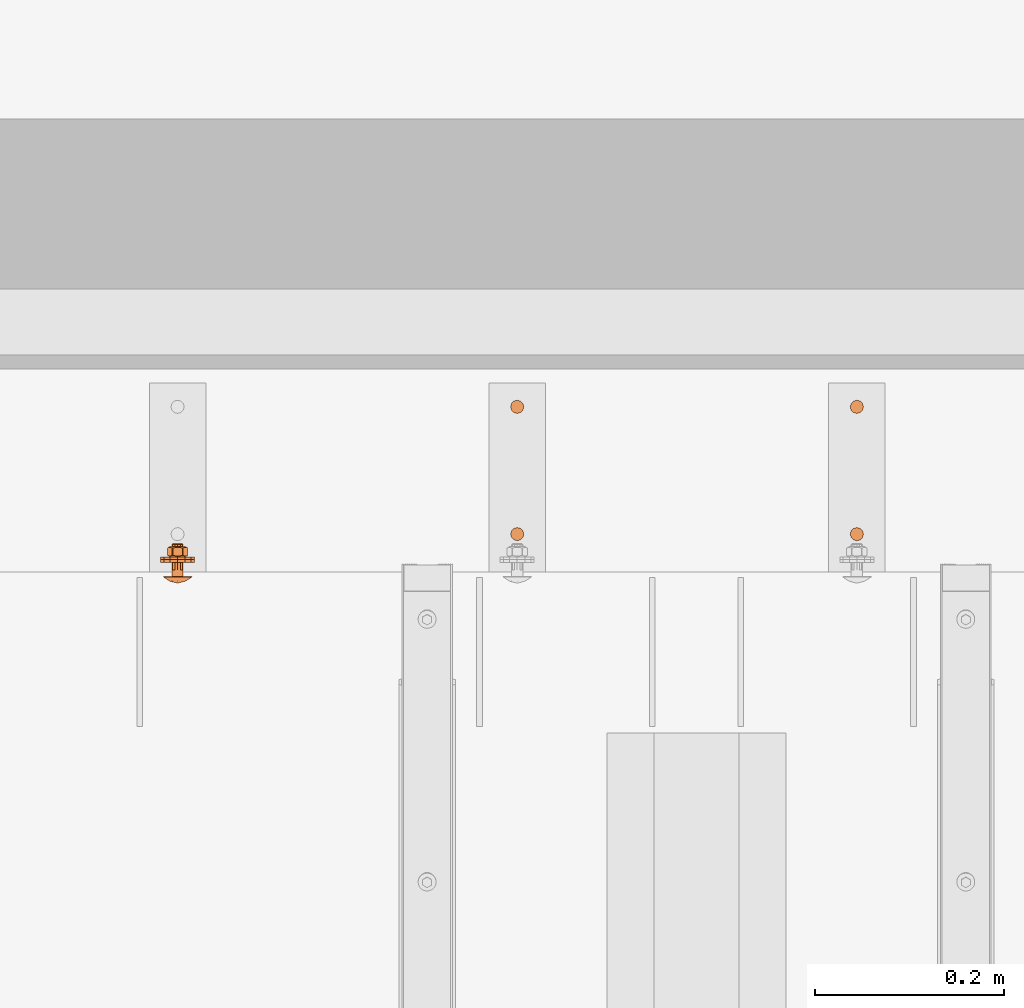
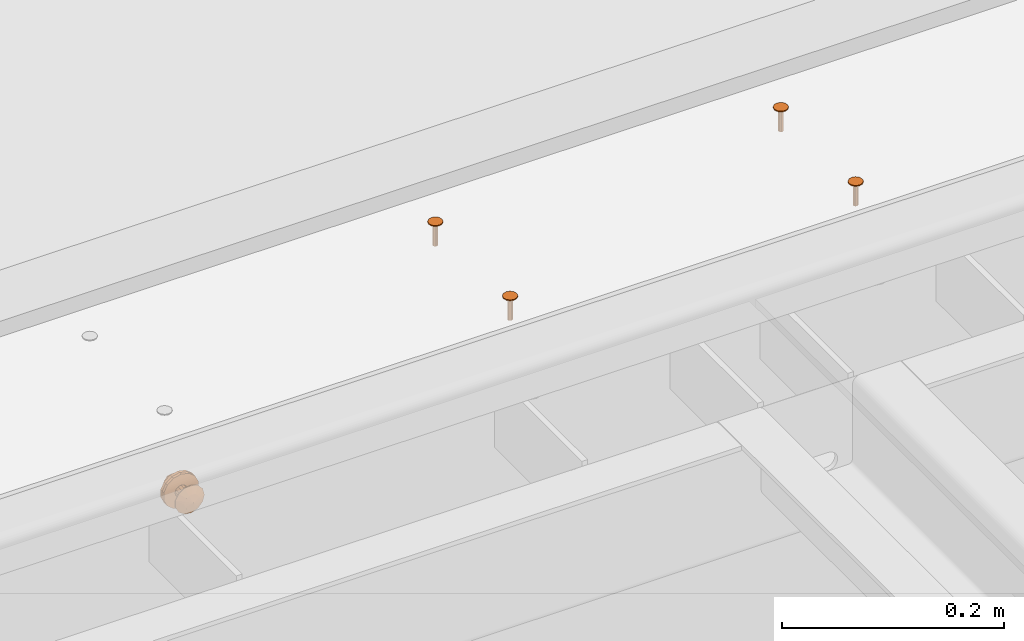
# One storey, part 109 of 116: 8 proxies.
"""IFC2X3 building model written with IfcOpenShell, lengths in millimetres."""

import ifcopenshell
import ifcopenshell.guid

model = None  # the IFC model being written
_history = None  # IfcOwnerHistory: only IFC2X3 demands one
_inside = {}  # id of a spatial element -> (the spatial element, [elements in it])
_under = {}  # id of a project, library or spatial element -> (it, [spatial elements below it])
_declared = {}  # id of a project -> (the project, [libraries it declares])
_typed = {}  # id of a type object -> (the type object, [elements of that type])
_made_of = {}  # id of a material, layer set ... -> (it, [elements and type objects made of it])


def new_model(schema):
    """Start an empty IFC model of exactly this schema.

    Asked for "IFC4X3", IfcOpenShell would pick the latest addendum, in which some entities
    have other attributes; the version numbers below select the first issue.
    IFC2X3 requires an IfcOwnerHistory on every rooted entity: one is made here for all.
    """
    global model, _history
    if schema == "IFC4X3":
        model = ifcopenshell.file(schema_version=(4, 3, 0, 0))
    else:
        model = ifcopenshell.file(schema=schema)
    _inside.clear()
    _under.clear()
    _declared.clear()
    _typed.clear()
    _made_of.clear()
    _history = None
    if model.schema == "IFC2X3":
        org = make("IfcOrganization", Name="unknown")
        user = make(
            "IfcPersonAndOrganization",
            ThePerson=make("IfcPerson", FamilyName="unknown"),
            TheOrganization=org,
        )
        app = make(
            "IfcApplication",
            ApplicationDeveloper=org,
            Version="unknown",
            ApplicationFullName="unknown",
            ApplicationIdentifier="unknown",
        )
        _history = make(
            "IfcOwnerHistory",
            OwningUser=user,
            OwningApplication=app,
            ChangeAction="ADDED",
            CreationDate=0,
        )
    return model


def make(cls, **values):
    """One entity of the class cls with the attributes given. An attribute that is None is left unset."""
    return model.create_entity(
        cls, **{name: value for name, value in values.items() if value is not None}
    )


def entity(cls, *values):
    """Any entity or typed value of the class cls, its attributes in the order of the schema. None: left unset."""
    e = model.create_entity(cls)
    for i, value in enumerate(values):
        if value is not None:
            e[i] = value
    return e


def rooted(cls, **values):
    """An entity with a GlobalId (a new one), such as an element, a storey or a relation."""
    return make(cls, GlobalId=ifcopenshell.guid.new(), OwnerHistory=_history, **values)


def si_unit(unit_type, name, prefix=None):
    """IfcSIUnit, for example si_unit("LENGTHUNIT", "METRE", prefix="MILLI")."""
    return make("IfcSIUnit", UnitType=unit_type, Prefix=prefix, Name=name)


def converted_unit(unit_type, name, factor, base, dimensions=None, offset=None):
    """IfcConversionBasedUnit, such as the inch: factor (a typed value) times the base unit."""
    return make(
        "IfcConversionBasedUnit"
        if offset is None
        else "IfcConversionBasedUnitWithOffset",
        ConversionOffset=offset,
        Dimensions=None
        if dimensions is None
        else entity("IfcDimensionalExponents", *dimensions),
        UnitType=unit_type,
        Name=name,
        ConversionFactor=make(
            "IfcMeasureWithUnit", ValueComponent=factor, UnitComponent=base
        ),
    )


def assignment(units):
    """IfcUnitAssignment: the units of a project."""
    return None if units is None else make("IfcUnitAssignment", Units=units)


def point(xyz):
    """IfcCartesianPoint."""
    return None if xyz is None else make("IfcCartesianPoint", Coordinates=xyz)


def direction(xyz):
    """IfcDirection."""
    return None if xyz is None else make("IfcDirection", DirectionRatios=xyz)


def frame(location, z_axis=None, x_axis=None):
    """IfcAxis2Placement3D, a coordinate frame: its origin and axes. An axis left out is left unset."""
    return make(
        "IfcAxis2Placement3D",
        Location=point(location),
        Axis=direction(z_axis),
        RefDirection=direction(x_axis),
    )


def origin_with_axes():
    """The frame at (0, 0, 0) with the z axis (0, 0, 1) and the x axis (1, 0, 0) written out."""
    return frame((0.0, 0.0, 0.0), z_axis=(0.0, 0.0, 1.0), x_axis=(1.0, 0.0, 0.0))


def place(relative_to, where):
    """IfcLocalPlacement: puts the frame where relative to a parent placement (None: the world)."""
    return make(
        "IfcLocalPlacement", PlacementRelTo=relative_to, RelativePlacement=where
    )


def context(
    kind, dimensions, precision=None, world=None, true_north=None, identifier=None
):
    """IfcGeometricRepresentationContext, for example the 3D "Model" context."""
    return make(
        "IfcGeometricRepresentationContext",
        ContextIdentifier=identifier,
        ContextType=kind,
        CoordinateSpaceDimension=dimensions,
        Precision=precision,
        WorldCoordinateSystem=world,
        TrueNorth=true_north,
    )


def project(units=None, contexts=None):
    """IfcProject with its units and contexts."""
    return rooted(
        "IfcProject",
        Name="project",
        RepresentationContexts=contexts,
        UnitsInContext=assignment(units),
    )


def spatial(cls, under=None, at=None, **own):
    """A site, building, storey or space (cls), placed at a placement, below another one or the project."""
    s = rooted(cls, ObjectPlacement=at, **own)
    if under is not None:
        _under.setdefault(under.id(), (under, []))[1].append(s)
    return s


def faces_of(points, faces, orient=None, outer=None):
    """IfcFace entities. A face is a list of loops; a loop is a list of indices into points, from 0.

    orient and outer hold one flag for each loop. By default every Orientation is true, the
    first loop of a face is its IfcFaceOuterBound and the others are IfcFaceBound.
    """
    made = []
    for i, loops in enumerate(faces):
        bounds = []
        for j, loop in enumerate(loops):
            is_outer = j == 0 if outer is None else outer[i][j]
            bounds.append(
                make(
                    "IfcFaceOuterBound" if is_outer else "IfcFaceBound",
                    Bound=make("IfcPolyLoop", Polygon=[points[k] for k in loop]),
                    Orientation=True if orient is None else orient[i][j],
                )
            )
        made.append(make("IfcFace", Bounds=bounds))
    return made


def faceted_brep(points, faces, orient=None, outer=None, voids=None):
    """IfcFacetedBrep: a solid bounded by flat faces; with voids (closed shells), ...WithVoids."""
    shared = [point(p) for p in points]
    hull = make("IfcClosedShell", CfsFaces=faces_of(shared, faces, orient, outer))
    if voids is None:
        return make("IfcFacetedBrep", Outer=hull)
    return make(
        "IfcFacetedBrepWithVoids",
        Outer=hull,
        Voids=[
            make(cls, CfsFaces=faces_of(shared, fs, o, b)) for cls, fs, o, b in voids
        ],
    )


def shape(context_of_items, identifier, shape_type, items):
    """IfcShapeRepresentation: the items that make up one representation, for example the "Body"."""
    return make(
        "IfcShapeRepresentation",
        ContextOfItems=context_of_items,
        RepresentationIdentifier=identifier,
        RepresentationType=shape_type,
        Items=items,
    )


def material(Name=None, Category=None):
    """IfcMaterial."""
    return make("IfcMaterial", Name=Name, Category=Category)


def made_of(thing, what):
    """Note that an element or type object is made of a material, layer set ...; save() writes the relation."""
    if what is not None:
        _made_of.setdefault(what.id(), (what, []))[1].append(thing)
    return thing


def element(
    cls,
    number,
    at=None,
    inside=None,
    cuts=None,
    type_object=None,
    material=None,
    context=None,
    identifier="Body",
    shape_type=None,
    held_by="IfcProductDefinitionShape",
    body=None,
    shapes=None,
    **own,
):
    """One element of the class cls, such as IfcWall. Its Tag is "e" and its number.

    at: its placement. inside: the storey or other place that contains it. cuts: it is an
    opening in that element (IfcRelVoidsElement). A single representation is given by context,
    identifier, shape_type and body (its items); several are given by shapes. held_by: the class
    of the entity that holds the representations. save() writes the other relations.
    """
    e = rooted(cls, Tag="e%d" % number, ObjectPlacement=at, **own)
    if body is not None:
        shapes = [shape(context, identifier, shape_type, body)]
    if shapes is not None:
        e.Representation = make(held_by, Representations=shapes)
    if inside is not None:
        _inside.setdefault(inside.id(), (inside, []))[1].append(e)
    if cuts is not None:
        rooted(
            "IfcRelVoidsElement", RelatingBuildingElement=cuts, RelatedOpeningElement=e
        )
    if type_object is not None:
        _typed.setdefault(type_object.id(), (type_object, []))[1].append(e)
    return made_of(e, material)


def aggregate(whole, parts):
    """IfcRelAggregates: a whole, such as a stair, and the parts it consists of."""
    return rooted("IfcRelAggregates", RelatingObject=whole, RelatedObjects=parts)


def save(model, path):
    """Write the relations noted so far, then the file.

    IfcRelAggregates (storeys below a building ...), IfcRelContainedInSpatialStructure (elements
    in a storey), IfcRelDefinesByType, IfcRelAssociatesMaterial and IfcRelDeclares: one each for
    every whole, place, type object, material and project.
    """
    for whole, parts in _under.values():
        aggregate(whole, parts)
    for where, things in _inside.values():
        rooted(
            "IfcRelContainedInSpatialStructure",
            RelatedElements=things,
            RelatingStructure=where,
        )
    for kind, things in _typed.values():
        rooted("IfcRelDefinesByType", RelatedObjects=things, RelatingType=kind)
    for what, things in _made_of.values():
        rooted("IfcRelAssociatesMaterial", RelatedObjects=things, RelatingMaterial=what)
    for by, libraries in _declared.values():
        rooted("IfcRelDeclares", RelatingContext=by, RelatedDefinitions=libraries)
    model.write(path)


model = new_model("IFC2X3")

# Units and contexts
model_context = context("Model", 3, precision=1e-09, world=origin_with_axes())
ifc_project = project(units=[si_unit("LENGTHUNIT", "METRE", prefix="MILLI"), si_unit("AREAUNIT", "SQUARE_METRE"), si_unit("VOLUMEUNIT", "CUBIC_METRE"), converted_unit("PLANEANGLEUNIT", "DEGREE", entity("IfcPlaneAngleMeasure", 0.01745329), si_unit("PLANEANGLEUNIT", "RADIAN"), dimensions=[0, 0, 0, 0, 0, 0, 0])], contexts=[model_context])

# Site, building, storey
site_placement = place(None, origin_with_axes())
site = spatial("IfcSite", under=ifc_project, at=site_placement, Name="Site", CompositionType="ELEMENT")
building_placement = place(site_placement, origin_with_axes())
building = spatial("IfcBuilding", under=site, at=building_placement, Name="Struktur 1", CompositionType="ELEMENT")
storey_placement = place(building_placement, origin_with_axes())
storey = spatial("IfcBuildingStorey", under=building, at=storey_placement, Name="Default Storey", CompositionType="ELEMENT", Elevation=0.0)

# Proxies
ifc_material = material(Name="Kein")
proxy_1_placement = place(None, origin_with_axes())
element("IfcBuildingElementProxy", 1, at=proxy_1_placement, inside=storey, material=ifc_material, ObjectType="-", context=model_context, shape_type="Brep", body=[
    faceted_brep([(56922.050634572, 12055.358883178, -5.0), (56922.050634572, 12055.358883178, -4.0), (56918.550634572, 12056.296705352, -4.0), (56918.550634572, 12056.296705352, -5.0), (56925.550634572, 12056.296705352, -5.0), (56925.550634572, 12056.296705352, -4.0), (56928.112812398, 12065.858883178, -4.0), (56925.550634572, 12068.421061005, -4.0), (56922.050634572, 12069.358883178, -4.0), (56918.550634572, 12068.421061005, -4.0), (56915.988456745, 12065.858883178, -4.0), (56915.050634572, 12062.358883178, -4.0), (56915.988456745, 12058.858883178, -4.0), (56928.112812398, 12058.858883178, -4.0), (56929.050634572, 12062.358883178, -4.0), (56915.988456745, 12065.858883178, -5.0), (56918.550634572, 12068.421061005, -5.0), (56922.050634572, 12069.358883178, -5.0), (56925.550634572, 12068.421061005, -5.0), (56928.112812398, 12065.858883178, -5.0), (56929.050634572, 12062.358883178, -5.0), (56928.112812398, 12058.858883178, -5.0), (56915.988456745, 12058.858883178, -5.0), (56915.050634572, 12062.358883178, -5.0)], [[[0, 1, 2, 3]], [[1, 0, 4, 5]], [[6, 7, 8, 9, 10, 11, 12, 2, 1, 5, 13, 14]], [[15, 16, 17, 18, 19, 20, 21, 4, 0, 3, 22, 23]], [[3, 2, 12, 22]], [[5, 4, 21, 13]], [[11, 23, 22, 12]], [[10, 15, 23, 11]], [[13, 21, 20, 14]], [[16, 9, 8, 17]], [[15, 10, 9, 16]], [[17, 8, 7, 18]], [[14, 20, 19, 6]], [[18, 7, 6, 19]]]),
    faceted_brep([(56922.050634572, 12059.858883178, -30.0), (56922.050634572, 12059.858883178, -5.0), (56920.800634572, 12060.193819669, -5.0), (56920.800634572, 12060.193819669, -30.0), (56923.300634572, 12060.193819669, -30.0), (56923.300634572, 12060.193819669, -5.0), (56924.215698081, 12063.608883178, -5.0), (56923.300634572, 12064.523946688, -5.0), (56922.050634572, 12064.858883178, -5.0), (56920.800634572, 12064.523946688, -5.0), (56919.885571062, 12063.608883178, -5.0), (56919.550634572, 12062.358883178, -5.0), (56919.885571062, 12061.108883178, -5.0), (56924.215698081, 12061.108883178, -5.0), (56924.550634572, 12062.358883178, -5.0), (56919.885571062, 12063.608883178, -30.0), (56920.800634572, 12064.523946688, -30.0), (56922.050634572, 12064.858883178, -30.0), (56923.300634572, 12064.523946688, -30.0), (56924.215698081, 12063.608883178, -30.0), (56924.550634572, 12062.358883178, -30.0), (56924.215698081, 12061.108883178, -30.0), (56919.885571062, 12061.108883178, -30.0), (56919.550634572, 12062.358883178, -30.0)], [[[0, 1, 2, 3]], [[1, 0, 4, 5]], [[6, 7, 8, 9, 10, 11, 12, 2, 1, 5, 13, 14]], [[15, 16, 17, 18, 19, 20, 21, 4, 0, 3, 22, 23]], [[3, 2, 12, 22]], [[5, 4, 21, 13]], [[11, 23, 22, 12]], [[10, 15, 23, 11]], [[13, 21, 20, 14]], [[16, 9, 8, 17]], [[15, 10, 9, 16]], [[17, 8, 7, 18]], [[14, 20, 19, 6]], [[18, 7, 6, 19]]]),
])
proxy_2_placement = place(None, origin_with_axes())
element("IfcBuildingElementProxy", 2, at=proxy_2_placement, inside=storey, material=ifc_material, ObjectType="-", context=model_context, shape_type="Brep", body=[
    faceted_brep([(56922.050634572, 12190.357883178, -5.0), (56922.050634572, 12190.357883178, -4.0), (56918.550634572, 12191.295705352, -4.0), (56918.550634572, 12191.295705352, -5.0), (56925.550634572, 12191.295705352, -5.0), (56925.550634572, 12191.295705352, -4.0), (56928.112812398, 12200.857883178, -4.0), (56925.550634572, 12203.420061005, -4.0), (56922.050634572, 12204.357883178, -4.0), (56918.550634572, 12203.420061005, -4.0), (56915.988456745, 12200.857883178, -4.0), (56915.050634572, 12197.357883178, -4.0), (56915.988456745, 12193.857883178, -4.0), (56928.112812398, 12193.857883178, -4.0), (56929.050634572, 12197.357883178, -4.0), (56915.988456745, 12200.857883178, -5.0), (56918.550634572, 12203.420061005, -5.0), (56922.050634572, 12204.357883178, -5.0), (56925.550634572, 12203.420061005, -5.0), (56928.112812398, 12200.857883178, -5.0), (56929.050634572, 12197.357883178, -5.0), (56928.112812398, 12193.857883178, -5.0), (56915.988456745, 12193.857883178, -5.0), (56915.050634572, 12197.357883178, -5.0)], [[[0, 1, 2, 3]], [[1, 0, 4, 5]], [[6, 7, 8, 9, 10, 11, 12, 2, 1, 5, 13, 14]], [[15, 16, 17, 18, 19, 20, 21, 4, 0, 3, 22, 23]], [[3, 2, 12, 22]], [[5, 4, 21, 13]], [[11, 23, 22, 12]], [[10, 15, 23, 11]], [[13, 21, 20, 14]], [[16, 9, 8, 17]], [[15, 10, 9, 16]], [[17, 8, 7, 18]], [[14, 20, 19, 6]], [[18, 7, 6, 19]]]),
    faceted_brep([(56922.050634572, 12194.857883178, -30.0), (56922.050634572, 12194.857883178, -5.0), (56920.800634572, 12195.192819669, -5.0), (56920.800634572, 12195.192819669, -30.0), (56923.300634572, 12195.192819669, -30.0), (56923.300634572, 12195.192819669, -5.0), (56924.215698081, 12198.607883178, -5.0), (56923.300634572, 12199.522946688, -5.0), (56922.050634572, 12199.857883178, -5.0), (56920.800634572, 12199.522946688, -5.0), (56919.885571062, 12198.607883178, -5.0), (56919.550634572, 12197.357883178, -5.0), (56919.885571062, 12196.107883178, -5.0), (56924.215698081, 12196.107883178, -5.0), (56924.550634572, 12197.357883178, -5.0), (56919.885571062, 12198.607883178, -30.0), (56920.800634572, 12199.522946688, -30.0), (56922.050634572, 12199.857883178, -30.0), (56923.300634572, 12199.522946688, -30.0), (56924.215698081, 12198.607883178, -30.0), (56924.550634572, 12197.357883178, -30.0), (56924.215698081, 12196.107883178, -30.0), (56919.885571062, 12196.107883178, -30.0), (56919.550634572, 12197.357883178, -30.0)], [[[0, 1, 2, 3]], [[1, 0, 4, 5]], [[6, 7, 8, 9, 10, 11, 12, 2, 1, 5, 13, 14]], [[15, 16, 17, 18, 19, 20, 21, 4, 0, 3, 22, 23]], [[3, 2, 12, 22]], [[5, 4, 21, 13]], [[11, 23, 22, 12]], [[10, 15, 23, 11]], [[13, 21, 20, 14]], [[16, 9, 8, 17]], [[15, 10, 9, 16]], [[17, 8, 7, 18]], [[14, 20, 19, 6]], [[18, 7, 6, 19]]]),
])
proxy_3_placement = place(None, origin_with_axes())
element("IfcBuildingElementProxy", 3, at=proxy_3_placement, inside=storey, material=ifc_material, ObjectType="-", context=model_context, shape_type="Brep", body=[
    faceted_brep([(56562.050634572, 12055.358883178, -5.0), (56562.050634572, 12055.358883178, -4.0), (56558.550634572, 12056.296705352, -4.0), (56558.550634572, 12056.296705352, -5.0), (56565.550634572, 12056.296705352, -5.0), (56565.550634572, 12056.296705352, -4.0), (56568.112812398, 12065.858883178, -4.0), (56565.550634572, 12068.421061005, -4.0), (56562.050634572, 12069.358883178, -4.0), (56558.550634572, 12068.421061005, -4.0), (56555.988456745, 12065.858883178, -4.0), (56555.050634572, 12062.358883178, -4.0), (56555.988456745, 12058.858883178, -4.0), (56568.112812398, 12058.858883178, -4.0), (56569.050634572, 12062.358883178, -4.0), (56555.988456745, 12065.858883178, -5.0), (56558.550634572, 12068.421061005, -5.0), (56562.050634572, 12069.358883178, -5.0), (56565.550634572, 12068.421061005, -5.0), (56568.112812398, 12065.858883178, -5.0), (56569.050634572, 12062.358883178, -5.0), (56568.112812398, 12058.858883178, -5.0), (56555.988456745, 12058.858883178, -5.0), (56555.050634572, 12062.358883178, -5.0)], [[[0, 1, 2, 3]], [[1, 0, 4, 5]], [[6, 7, 8, 9, 10, 11, 12, 2, 1, 5, 13, 14]], [[15, 16, 17, 18, 19, 20, 21, 4, 0, 3, 22, 23]], [[3, 2, 12, 22]], [[5, 4, 21, 13]], [[11, 23, 22, 12]], [[10, 15, 23, 11]], [[13, 21, 20, 14]], [[16, 9, 8, 17]], [[15, 10, 9, 16]], [[17, 8, 7, 18]], [[14, 20, 19, 6]], [[18, 7, 6, 19]]]),
    faceted_brep([(56562.050634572, 12059.858883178, -30.0), (56562.050634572, 12059.858883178, -5.0), (56560.800634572, 12060.193819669, -5.0), (56560.800634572, 12060.193819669, -30.0), (56563.300634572, 12060.193819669, -30.0), (56563.300634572, 12060.193819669, -5.0), (56564.215698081, 12063.608883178, -5.0), (56563.300634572, 12064.523946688, -5.0), (56562.050634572, 12064.858883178, -5.0), (56560.800634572, 12064.523946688, -5.0), (56559.885571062, 12063.608883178, -5.0), (56559.550634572, 12062.358883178, -5.0), (56559.885571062, 12061.108883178, -5.0), (56564.215698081, 12061.108883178, -5.0), (56564.550634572, 12062.358883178, -5.0), (56559.885571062, 12063.608883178, -30.0), (56560.800634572, 12064.523946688, -30.0), (56562.050634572, 12064.858883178, -30.0), (56563.300634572, 12064.523946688, -30.0), (56564.215698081, 12063.608883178, -30.0), (56564.550634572, 12062.358883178, -30.0), (56564.215698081, 12061.108883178, -30.0), (56559.885571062, 12061.108883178, -30.0), (56559.550634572, 12062.358883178, -30.0)], [[[0, 1, 2, 3]], [[1, 0, 4, 5]], [[6, 7, 8, 9, 10, 11, 12, 2, 1, 5, 13, 14]], [[15, 16, 17, 18, 19, 20, 21, 4, 0, 3, 22, 23]], [[3, 2, 12, 22]], [[5, 4, 21, 13]], [[11, 23, 22, 12]], [[10, 15, 23, 11]], [[13, 21, 20, 14]], [[16, 9, 8, 17]], [[15, 10, 9, 16]], [[17, 8, 7, 18]], [[14, 20, 19, 6]], [[18, 7, 6, 19]]]),
])
proxy_4_placement = place(None, origin_with_axes())
element("IfcBuildingElementProxy", 4, at=proxy_4_placement, inside=storey, material=ifc_material, ObjectType="-", context=model_context, shape_type="Brep", body=[
    faceted_brep([(56562.050634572, 12190.357883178, -5.0), (56562.050634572, 12190.357883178, -4.0), (56558.550634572, 12191.295705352, -4.0), (56558.550634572, 12191.295705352, -5.0), (56565.550634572, 12191.295705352, -5.0), (56565.550634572, 12191.295705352, -4.0), (56568.112812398, 12200.857883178, -4.0), (56565.550634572, 12203.420061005, -4.0), (56562.050634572, 12204.357883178, -4.0), (56558.550634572, 12203.420061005, -4.0), (56555.988456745, 12200.857883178, -4.0), (56555.050634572, 12197.357883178, -4.0), (56555.988456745, 12193.857883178, -4.0), (56568.112812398, 12193.857883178, -4.0), (56569.050634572, 12197.357883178, -4.0), (56555.988456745, 12200.857883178, -5.0), (56558.550634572, 12203.420061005, -5.0), (56562.050634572, 12204.357883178, -5.0), (56565.550634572, 12203.420061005, -5.0), (56568.112812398, 12200.857883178, -5.0), (56569.050634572, 12197.357883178, -5.0), (56568.112812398, 12193.857883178, -5.0), (56555.988456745, 12193.857883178, -5.0), (56555.050634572, 12197.357883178, -5.0)], [[[0, 1, 2, 3]], [[1, 0, 4, 5]], [[6, 7, 8, 9, 10, 11, 12, 2, 1, 5, 13, 14]], [[15, 16, 17, 18, 19, 20, 21, 4, 0, 3, 22, 23]], [[3, 2, 12, 22]], [[5, 4, 21, 13]], [[11, 23, 22, 12]], [[10, 15, 23, 11]], [[13, 21, 20, 14]], [[16, 9, 8, 17]], [[15, 10, 9, 16]], [[17, 8, 7, 18]], [[14, 20, 19, 6]], [[18, 7, 6, 19]]]),
    faceted_brep([(56562.050634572, 12194.857883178, -30.0), (56562.050634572, 12194.857883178, -5.0), (56560.800634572, 12195.192819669, -5.0), (56560.800634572, 12195.192819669, -30.0), (56563.300634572, 12195.192819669, -30.0), (56563.300634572, 12195.192819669, -5.0), (56564.215698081, 12198.607883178, -5.0), (56563.300634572, 12199.522946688, -5.0), (56562.050634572, 12199.857883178, -5.0), (56560.800634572, 12199.522946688, -5.0), (56559.885571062, 12198.607883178, -5.0), (56559.550634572, 12197.357883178, -5.0), (56559.885571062, 12196.107883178, -5.0), (56564.215698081, 12196.107883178, -5.0), (56564.550634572, 12197.357883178, -5.0), (56559.885571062, 12198.607883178, -30.0), (56560.800634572, 12199.522946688, -30.0), (56562.050634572, 12199.857883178, -30.0), (56563.300634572, 12199.522946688, -30.0), (56564.215698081, 12198.607883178, -30.0), (56564.550634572, 12197.357883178, -30.0), (56564.215698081, 12196.107883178, -30.0), (56559.885571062, 12196.107883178, -30.0), (56559.550634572, 12197.357883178, -30.0)], [[[0, 1, 2, 3]], [[1, 0, 4, 5]], [[6, 7, 8, 9, 10, 11, 12, 2, 1, 5, 13, 14]], [[15, 16, 17, 18, 19, 20, 21, 4, 0, 3, 22, 23]], [[3, 2, 12, 22]], [[5, 4, 21, 13]], [[11, 23, 22, 12]], [[10, 15, 23, 11]], [[13, 21, 20, 14]], [[16, 9, 8, 17]], [[15, 10, 9, 16]], [[17, 8, 7, 18]], [[14, 20, 19, 6]], [[18, 7, 6, 19]]]),
])
proxy_5_placement = place(None, origin_with_axes())
element("IfcBuildingElementProxy", 5, at=proxy_5_placement, inside=storey, material=ifc_material, ObjectType="-", context=model_context, shape_type="Brep", body=[
    faceted_brep([(56216.514516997, 12032.358883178, -63.465438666), (56216.514516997, 12035.358883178, -63.465438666), (56210.077483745, 12035.358883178, -58.332075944), (56210.077483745, 12032.358883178, -58.332075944), (56220.086800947, 12032.358883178, -79.116637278), (56220.086800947, 12032.358883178, -70.883362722), (56202.050634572, 12032.358883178, -56.5), (56194.023785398, 12032.358883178, -58.332075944), (56187.586752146, 12032.358883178, -63.465438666), (56184.014468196, 12032.358883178, -70.883362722), (56184.014468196, 12032.358883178, -79.116637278), (56187.586752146, 12032.358883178, -86.534561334), (56194.023785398, 12032.358883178, -91.667924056), (56202.050634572, 12032.358883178, -93.5), (56210.077483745, 12032.358883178, -91.667924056), (56216.514516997, 12032.358883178, -86.534561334), (56207.679799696, 12032.358883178, -71.75), (56208.550634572, 12032.358883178, -75.0), (56207.679799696, 12032.358883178, -78.25), (56205.300634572, 12032.358883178, -80.629165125), (56202.050634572, 12032.358883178, -81.5), (56198.800634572, 12032.358883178, -80.629165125), (56196.421469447, 12032.358883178, -78.25), (56195.550634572, 12032.358883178, -75.0), (56196.421469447, 12032.358883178, -71.75), (56198.800634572, 12032.358883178, -69.370834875), (56202.050634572, 12032.358883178, -68.5), (56205.300634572, 12032.358883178, -69.370834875), (56194.023785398, 12035.358883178, -58.332075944), (56202.050634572, 12035.358883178, -56.5), (56220.086800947, 12035.358883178, -70.883362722), (56220.086800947, 12035.358883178, -79.116637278), (56216.514516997, 12035.358883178, -86.534561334), (56210.077483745, 12035.358883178, -91.667924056), (56202.050634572, 12035.358883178, -93.5), (56194.023785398, 12035.358883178, -91.667924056), (56187.586752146, 12035.358883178, -86.534561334), (56184.014468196, 12035.358883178, -79.116637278), (56184.014468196, 12035.358883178, -70.883362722), (56187.586752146, 12035.358883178, -63.465438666), (56202.050634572, 12035.358883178, -68.5), (56198.800634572, 12035.358883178, -69.370834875), (56196.421469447, 12035.358883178, -71.75), (56195.550634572, 12035.358883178, -75.0), (56196.421469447, 12035.358883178, -78.25), (56198.800634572, 12035.358883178, -80.629165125), (56202.050634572, 12035.358883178, -81.5), (56205.300634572, 12035.358883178, -80.629165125), (56207.679799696, 12035.358883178, -78.25), (56208.550634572, 12035.358883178, -75.0), (56207.679799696, 12035.358883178, -71.75), (56205.300634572, 12035.358883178, -69.370834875)], [[[0, 1, 2, 3]], [[4, 5, 0, 3, 6, 7, 8, 9, 10, 11, 12, 13, 14, 15], [16, 17, 18, 19, 20, 21, 22, 23, 24, 25, 26, 27]], [[28, 29, 2, 1, 30, 31, 32, 33, 34, 35, 36, 37, 38, 39], [40, 41, 42, 43, 44, 45, 46, 47, 48, 49, 50, 51]], [[1, 0, 5, 30]], [[27, 51, 50, 16]], [[51, 27, 26, 40]], [[3, 2, 29, 6]], [[30, 5, 4, 31]], [[16, 50, 49, 17]], [[40, 26, 25, 41]], [[6, 29, 28, 7]], [[31, 4, 15, 32]], [[17, 49, 48, 18]], [[41, 25, 24, 42]], [[7, 28, 39, 8]], [[32, 15, 14, 33]], [[18, 48, 47, 19]], [[42, 24, 23, 43]], [[8, 39, 38, 9]], [[33, 14, 13, 34]], [[19, 47, 46, 20]], [[22, 44, 43, 23]], [[9, 38, 37, 10]], [[45, 21, 20, 46]], [[44, 22, 21, 45]], [[34, 13, 12, 35]], [[10, 37, 36, 11]], [[35, 12, 11, 36]]]),
])
proxy_6_placement = place(None, origin_with_axes())
element("IfcBuildingElementProxy", 6, at=proxy_6_placement, inside=storey, material=ifc_material, ObjectType="-", context=model_context, shape_type="Brep", body=[
    faceted_brep([(56207.538668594, 12039.773542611, -65.756103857), (56207.538668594, 12047.744223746, -65.756103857), (56207.31206645, 12047.744223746, -65.625275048), (56207.31206645, 12039.773542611, -65.625275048), (56207.762019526, 12039.773542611, -65.892408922), (56206.200634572, 12038.358883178, -67.811989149), (56206.200634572, 12049.158883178, -67.811989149), (56207.762019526, 12047.744223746, -65.892408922), (56207.082347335, 12047.744223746, -65.5), (56207.082347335, 12039.773542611, -65.5), (56212.793732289, 12047.744223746, -74.607591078), (56212.793732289, 12039.773542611, -74.607591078), (56212.800100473, 12039.773542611, -74.869171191), (56212.800100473, 12047.744223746, -74.869171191), (56210.277875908, 12039.051703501, -70.25), (56210.277875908, 12048.466062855, -70.25), (56212.800100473, 12039.773542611, -75.130828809), (56212.800100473, 12047.744223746, -75.130828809), (56210.350634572, 12049.158883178, -75.0), (56202.050634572, 12048.466062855, -65.5), (56197.018921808, 12047.744223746, -65.5), (56197.018921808, 12039.773542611, -65.5), (56202.050634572, 12039.051703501, -65.5), (56212.793732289, 12039.773542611, -75.392408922), (56212.793732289, 12047.744223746, -75.392408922), (56210.350634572, 12038.358883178, -75.0), (56209.238645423, 12038.358883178, -70.85), (56202.050634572, 12038.358883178, -66.7), (56197.900634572, 12038.358883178, -67.811989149), (56194.86262372, 12038.358883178, -70.85), (56193.750634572, 12038.358883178, -75.0), (56194.86262372, 12038.358883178, -79.15), (56197.900634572, 12038.358883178, -82.188010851), (56202.050634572, 12038.358883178, -83.3), (56206.200634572, 12038.358883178, -82.188010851), (56209.238645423, 12038.358883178, -79.15), (56199.050634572, 12038.358883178, -69.803847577), (56202.050634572, 12038.358883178, -69.0), (56205.050634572, 12038.358883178, -69.803847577), (56207.246786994, 12038.358883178, -72.0), (56208.050634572, 12038.358883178, -75.0), (56207.246786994, 12038.358883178, -78.0), (56205.050634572, 12038.358883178, -80.196152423), (56202.050634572, 12038.358883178, -81.0), (56199.050634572, 12038.358883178, -80.196152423), (56196.854482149, 12038.358883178, -78.0), (56196.050634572, 12038.358883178, -75.0), (56196.854482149, 12038.358883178, -72.0), (56205.050634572, 12049.158883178, -69.803847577), (56207.246786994, 12049.158883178, -72.0), (56209.238645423, 12049.158883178, -70.85), (56209.238645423, 12049.158883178, -79.15), (56206.200634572, 12049.158883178, -82.188010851), (56202.050634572, 12049.158883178, -83.3), (56197.900634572, 12049.158883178, -82.188010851), (56194.86262372, 12049.158883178, -79.15), (56193.750634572, 12049.158883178, -75.0), (56194.86262372, 12049.158883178, -70.85), (56197.900634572, 12049.158883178, -67.811989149), (56202.050634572, 12049.158883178, -66.7), (56208.050634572, 12049.158883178, -75.0), (56202.050634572, 12049.158883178, -69.0), (56199.050634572, 12049.158883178, -69.803847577), (56196.854482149, 12049.158883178, -72.0), (56196.050634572, 12049.158883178, -75.0), (56196.854482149, 12049.158883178, -78.0), (56199.050634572, 12049.158883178, -80.196152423), (56202.050634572, 12049.158883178, -81.0), (56205.050634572, 12049.158883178, -80.196152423), (56207.246786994, 12049.158883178, -78.0), (56196.789202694, 12047.744223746, -65.625275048), (56196.789202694, 12039.773542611, -65.625275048), (56210.277875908, 12039.051703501, -79.75), (56207.762019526, 12039.773542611, -84.107591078), (56207.762019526, 12047.744223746, -84.107591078), (56210.277875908, 12048.466062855, -79.75), (56196.562600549, 12047.744223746, -65.756103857), (56196.562600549, 12039.773542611, -65.756103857), (56196.339249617, 12047.744223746, -65.892408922), (56196.339249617, 12039.773542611, -65.892408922), (56193.823393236, 12048.466062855, -70.25), (56191.307536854, 12047.744223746, -74.607591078), (56191.307536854, 12039.773542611, -74.607591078), (56193.823393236, 12039.051703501, -70.25), (56207.538668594, 12039.773542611, -84.243896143), (56207.538668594, 12047.744223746, -84.243896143), (56191.301168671, 12047.744223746, -74.869171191), (56191.301168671, 12039.773542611, -74.869171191), (56207.31206645, 12039.773542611, -84.374724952), (56207.31206645, 12047.744223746, -84.374724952), (56191.301168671, 12047.744223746, -75.130828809), (56191.301168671, 12039.773542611, -75.130828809), (56207.082347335, 12039.773542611, -84.5), (56207.082347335, 12047.744223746, -84.5), (56191.307536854, 12047.744223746, -75.392408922), (56191.307536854, 12039.773542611, -75.392408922), (56202.050634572, 12039.051703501, -84.5), (56197.018921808, 12039.773542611, -84.5), (56197.018921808, 12047.744223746, -84.5), (56202.050634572, 12048.466062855, -84.5), (56193.823393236, 12048.466062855, -79.75), (56196.339249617, 12047.744223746, -84.107591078), (56196.339249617, 12039.773542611, -84.107591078), (56193.823393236, 12039.051703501, -79.75), (56196.789202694, 12039.773542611, -84.374724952), (56196.789202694, 12047.744223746, -84.374724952), (56196.562600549, 12039.773542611, -84.243896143), (56196.562600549, 12047.744223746, -84.243896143)], [[[0, 1, 2, 3]], [[4, 0, 5]], [[1, 6, 2]], [[1, 0, 4, 7]], [[8, 9, 3, 2]], [[3, 5, 0]], [[8, 2, 6]], [[10, 11, 12, 13]], [[14, 11, 10, 15, 7, 4]], [[14, 4, 5]], [[1, 7, 6]], [[13, 12, 16, 17]], [[10, 13, 18]], [[8, 19, 20, 21, 22, 9]], [[3, 9, 5]], [[19, 8, 6]], [[23, 24, 17, 16]], [[12, 25, 16]], [[14, 5, 26]], [[5, 27, 28, 29, 30, 31, 32, 33, 34, 35, 25, 26], [36, 37, 38, 39, 40, 41, 42, 43, 44, 45, 46, 47]], [[38, 48, 49, 39]], [[7, 50, 6]], [[6, 50, 18, 51, 52, 53, 54, 55, 56, 57, 58, 59], [60, 49, 48, 61, 62, 63, 64, 65, 66, 67, 68, 69]], [[17, 18, 13]], [[7, 15, 50]], [[15, 10, 18]], [[21, 20, 70, 71]], [[9, 27, 5]], [[19, 6, 59]], [[48, 38, 37, 61]], [[72, 73, 74, 75, 24, 23]], [[23, 16, 25]], [[12, 11, 25]], [[11, 14, 26]], [[17, 24, 18]], [[15, 18, 50]], [[21, 71, 28]], [[71, 70, 76, 77]], [[9, 22, 27]], [[22, 21, 28]], [[70, 20, 58]], [[20, 19, 59]], [[70, 58, 76]], [[78, 79, 77, 76]], [[24, 75, 51]], [[72, 23, 25]], [[11, 26, 25]], [[39, 49, 60, 40]], [[24, 51, 18]], [[77, 28, 71]], [[22, 28, 27]], [[61, 37, 36, 62]], [[20, 59, 58]], [[78, 76, 58]], [[78, 80, 81, 82, 83, 79]], [[75, 52, 51]], [[72, 25, 35]], [[77, 79, 28]], [[80, 78, 58]], [[75, 74, 52]], [[74, 73, 84, 85]], [[73, 72, 35]], [[40, 60, 69, 41]], [[79, 83, 29]], [[83, 82, 30]], [[82, 81, 86, 87]], [[79, 29, 28]], [[62, 36, 47, 63]], [[80, 58, 57]], [[74, 85, 52]], [[85, 84, 88, 89]], [[73, 35, 34]], [[84, 73, 34]], [[83, 30, 29]], [[82, 87, 30]], [[87, 86, 90, 91]], [[81, 80, 57]], [[81, 56, 86]], [[89, 52, 85]], [[89, 88, 92, 93]], [[68, 42, 41, 69]], [[84, 34, 88]], [[91, 30, 87]], [[91, 90, 94, 95]], [[63, 47, 46, 64]], [[81, 57, 56]], [[90, 86, 56]], [[89, 93, 52]], [[42, 68, 67, 43]], [[66, 44, 43, 67]], [[92, 88, 34]], [[91, 95, 30]], [[45, 65, 64, 46]], [[94, 90, 56]], [[93, 53, 52]], [[96, 97, 98, 99, 93, 92]], [[44, 66, 65, 45]], [[96, 92, 34]], [[95, 31, 30]], [[94, 100, 101, 102, 103, 95]], [[94, 56, 100]], [[93, 99, 53]], [[96, 34, 33]], [[95, 103, 31]], [[100, 56, 55]], [[99, 54, 53]], [[97, 96, 33]], [[103, 32, 31]], [[101, 100, 55]], [[99, 98, 54]], [[97, 33, 32]], [[102, 32, 103]], [[101, 55, 54]], [[98, 97, 104, 105]], [[98, 105, 54]], [[97, 32, 104]], [[102, 106, 32]], [[102, 101, 107, 106]], [[107, 101, 54]], [[107, 54, 105]], [[106, 104, 32]], [[105, 104, 106, 107]]]),
])
proxy_7_placement = place(None, origin_with_axes())
element("IfcBuildingElementProxy", 7, at=proxy_7_placement, inside=storey, material=ifc_material, ObjectType="-", context=model_context, shape_type="Brep", body=[
    faceted_brep([(56206.380761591, 12052.358883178, -72.5), (56207.246786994, 12051.358883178, -72.0), (56208.050634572, 12051.358883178, -75.0), (56207.050634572, 12052.358883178, -75.0), (56204.550634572, 12052.358883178, -70.669872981), (56205.050634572, 12051.358883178, -69.803847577), (56197.720507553, 12052.358883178, -72.5), (56199.550634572, 12052.358883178, -70.669872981), (56202.050634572, 12052.358883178, -70.0), (56206.380761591, 12052.358883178, -77.5), (56204.550634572, 12052.358883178, -79.330127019), (56202.050634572, 12052.358883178, -80.0), (56199.550634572, 12052.358883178, -79.330127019), (56197.720507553, 12052.358883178, -77.5), (56197.050634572, 12052.358883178, -75.0), (56215.620248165, 12017.011383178, -67.878117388), (56210.756226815, 12017.011383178, -62.387772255), (56207.83032902, 12012.523540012, -69.220305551), (56209.602169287, 12012.523540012, -71.872051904), (56202.050634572, 12051.358883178, -69.0), (56205.050634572, 12024.308883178, -69.803847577), (56207.246786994, 12024.308883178, -72.0), (56217.375634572, 12017.011383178, -75.0), (56215.620248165, 12017.358883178, -67.878117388), (56210.756226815, 12017.358883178, -62.387772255), (56207.246786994, 12051.358883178, -78.0), (56205.050634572, 12051.358883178, -80.196152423), (56208.050634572, 12024.308883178, -75.0), (56210.224356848, 12012.523540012, -75.0), (56205.178582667, 12012.523540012, -67.448465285), (56202.050634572, 12010.408883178, -75.0), (56203.897859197, 12017.011383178, -59.786736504), (56199.050634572, 12051.358883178, -69.803847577), (56202.050634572, 12024.308883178, -69.0), (56203.897859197, 12017.358883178, -59.786736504), (56196.854482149, 12051.358883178, -72.0), (56196.050634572, 12051.358883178, -75.0), (56217.375634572, 12017.358883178, -75.0), (56196.854482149, 12051.358883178, -78.0), (56199.050634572, 12051.358883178, -80.196152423), (56202.050634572, 12051.358883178, -81.0), (56208.050634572, 12024.308883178, -69.0), (56209.602169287, 12012.523540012, -78.127948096), (56202.050634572, 12012.523540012, -66.826277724), (56196.616314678, 12017.011383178, -60.670876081), (56199.050634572, 12024.308883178, -69.803847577), (56190.579707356, 12017.358883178, -64.837645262), (56196.616314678, 12017.358883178, -60.670876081), (56215.620248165, 12017.358883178, -82.121882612), (56210.756226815, 12017.358883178, -87.612227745), (56203.897859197, 12017.358883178, -90.213263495), (56196.616314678, 12017.358883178, -89.329123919), (56190.579707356, 12017.358883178, -85.162354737), (56187.17095122, 12017.358883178, -78.667512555), (56187.17095122, 12017.358883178, -71.332487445), (56196.050634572, 12017.358883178, -69.0), (56196.050634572, 12017.358883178, -81.0), (56208.050634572, 12017.358883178, -81.0), (56208.050634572, 12017.358883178, -69.0), (56215.620248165, 12017.011383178, -82.121882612), (56207.246786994, 12024.308883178, -78.0), (56205.050634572, 12024.308883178, -80.196152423), (56207.83032902, 12012.523540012, -80.779694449), (56198.922686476, 12012.523540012, -67.448465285), (56196.854482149, 12024.308883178, -72.0), (56196.050634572, 12024.308883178, -69.0), (56196.050634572, 12024.308883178, -75.0), (56196.854482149, 12024.308883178, -78.0), (56199.050634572, 12024.308883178, -80.196152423), (56202.050634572, 12024.308883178, -81.0), (56208.050634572, 12024.308883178, -81.0), (56210.756226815, 12017.011383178, -87.612227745), (56196.270940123, 12012.523540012, -69.220305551), (56190.579707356, 12017.011383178, -64.837645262), (56196.050634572, 12024.308883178, -81.0), (56205.178582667, 12012.523540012, -82.551534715), (56194.499099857, 12012.523540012, -71.872051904), (56203.897859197, 12017.011383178, -90.213263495), (56202.050634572, 12012.523540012, -83.173722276), (56187.17095122, 12017.011383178, -71.332487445), (56198.922686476, 12012.523540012, -82.551534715), (56193.876912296, 12012.523540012, -75.0), (56196.616314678, 12017.011383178, -89.329123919), (56196.270940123, 12012.523540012, -80.779694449), (56187.17095122, 12017.011383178, -78.667512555), (56194.499099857, 12012.523540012, -78.127948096), (56190.579707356, 12017.011383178, -85.162354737)], [[[0, 1, 2, 3]], [[1, 0, 4, 5]], [[6, 7, 8, 4, 0, 3, 9, 10, 11, 12, 13, 14]], [[15, 16, 17]], [[15, 17, 18]], [[8, 19, 5, 4]], [[5, 20, 21, 1]], [[18, 22, 15]], [[16, 15, 23, 24]], [[9, 25, 26, 10]], [[3, 2, 25, 9]], [[1, 21, 27, 2]], [[18, 28, 22]], [[16, 29, 17]], [[30, 18, 17]], [[16, 31, 29]], [[7, 32, 19, 8]], [[20, 5, 19, 33]], [[24, 34, 31, 16]], [[6, 35, 32, 7]], [[14, 36, 35, 6]], [[15, 22, 37, 23]], [[13, 38, 36, 14]], [[12, 39, 38, 13]], [[11, 40, 39, 12]], [[10, 26, 40, 11]], [[33, 41, 27, 21, 20]], [[28, 42, 22]], [[30, 28, 18]], [[31, 43, 29]], [[30, 17, 29]], [[31, 44, 43]], [[32, 45, 33, 19]], [[46, 47, 34, 24, 23, 37, 48, 49, 50, 51, 52, 53, 54], [55, 56, 57, 58]], [[59, 22, 42]], [[25, 60, 61, 26]], [[2, 27, 60, 25]], [[59, 42, 62]], [[28, 30, 42]], [[30, 29, 43]], [[44, 63, 43]], [[44, 31, 34, 47]], [[45, 32, 35, 64]], [[41, 33, 65, 55, 58]], [[36, 66, 64, 35]], [[38, 67, 66, 36]], [[22, 59, 48, 37]], [[67, 38, 39, 68]], [[40, 69, 68, 39]], [[26, 61, 69, 40]], [[58, 57, 70, 27, 41]], [[71, 59, 62]], [[30, 62, 42]], [[30, 43, 63]], [[44, 72, 63]], [[73, 72, 44]], [[47, 46, 73, 44]], [[66, 65, 33, 45, 64]], [[69, 74, 66, 67, 68]], [[27, 70, 69, 61, 60]], [[59, 71, 49, 48]], [[71, 62, 75]], [[30, 75, 62]], [[72, 30, 63]], [[73, 76, 72]], [[77, 71, 75]], [[30, 78, 75]], [[46, 54, 79, 73]], [[76, 30, 72]], [[79, 76, 73]], [[65, 66, 74, 56, 55]], [[74, 69, 70, 57, 56]], [[71, 77, 50, 49]], [[77, 75, 78]], [[30, 80, 78]], [[81, 30, 76]], [[79, 81, 76]], [[82, 77, 78]], [[80, 30, 83]], [[82, 78, 80]], [[54, 53, 84, 79]], [[85, 30, 81]], [[84, 81, 79]], [[83, 30, 85]], [[77, 82, 51, 50]], [[82, 80, 83]], [[84, 85, 81]], [[86, 83, 85]], [[82, 83, 86]], [[53, 52, 86, 84]], [[86, 85, 84]], [[82, 86, 52, 51]]]),
])
proxy_8_placement = place(None, origin_with_axes())
element("IfcBuildingElementProxy", 8, at=proxy_8_placement, inside=storey, material=ifc_material, ObjectType="-", context=model_context, shape_type="Brep", body=[
    faceted_brep([(56216.514516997, 12035.358883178, -63.465438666), (56216.514516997, 12038.358883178, -63.465438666), (56210.077483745, 12038.358883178, -58.332075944), (56210.077483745, 12035.358883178, -58.332075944), (56220.086800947, 12035.358883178, -79.116637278), (56220.086800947, 12035.358883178, -70.883362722), (56202.050634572, 12035.358883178, -56.5), (56194.023785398, 12035.358883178, -58.332075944), (56187.586752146, 12035.358883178, -63.465438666), (56184.014468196, 12035.358883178, -70.883362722), (56184.014468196, 12035.358883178, -79.116637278), (56187.586752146, 12035.358883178, -86.534561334), (56194.023785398, 12035.358883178, -91.667924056), (56202.050634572, 12035.358883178, -93.5), (56210.077483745, 12035.358883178, -91.667924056), (56216.514516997, 12035.358883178, -86.534561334), (56207.679799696, 12035.358883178, -71.75), (56208.550634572, 12035.358883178, -75.0), (56207.679799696, 12035.358883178, -78.25), (56205.300634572, 12035.358883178, -80.629165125), (56202.050634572, 12035.358883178, -81.5), (56198.800634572, 12035.358883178, -80.629165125), (56196.421469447, 12035.358883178, -78.25), (56195.550634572, 12035.358883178, -75.0), (56196.421469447, 12035.358883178, -71.75), (56198.800634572, 12035.358883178, -69.370834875), (56202.050634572, 12035.358883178, -68.5), (56205.300634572, 12035.358883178, -69.370834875), (56194.023785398, 12038.358883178, -58.332075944), (56202.050634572, 12038.358883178, -56.5), (56220.086800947, 12038.358883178, -70.883362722), (56220.086800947, 12038.358883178, -79.116637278), (56216.514516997, 12038.358883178, -86.534561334), (56210.077483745, 12038.358883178, -91.667924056), (56202.050634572, 12038.358883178, -93.5), (56194.023785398, 12038.358883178, -91.667924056), (56187.586752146, 12038.358883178, -86.534561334), (56184.014468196, 12038.358883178, -79.116637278), (56184.014468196, 12038.358883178, -70.883362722), (56187.586752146, 12038.358883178, -63.465438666), (56202.050634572, 12038.358883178, -68.5), (56198.800634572, 12038.358883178, -69.370834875), (56196.421469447, 12038.358883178, -71.75), (56195.550634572, 12038.358883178, -75.0), (56196.421469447, 12038.358883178, -78.25), (56198.800634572, 12038.358883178, -80.629165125), (56202.050634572, 12038.358883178, -81.5), (56205.300634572, 12038.358883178, -80.629165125), (56207.679799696, 12038.358883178, -78.25), (56208.550634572, 12038.358883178, -75.0), (56207.679799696, 12038.358883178, -71.75), (56205.300634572, 12038.358883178, -69.370834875)], [[[0, 1, 2, 3]], [[4, 5, 0, 3, 6, 7, 8, 9, 10, 11, 12, 13, 14, 15], [16, 17, 18, 19, 20, 21, 22, 23, 24, 25, 26, 27]], [[28, 29, 2, 1, 30, 31, 32, 33, 34, 35, 36, 37, 38, 39], [40, 41, 42, 43, 44, 45, 46, 47, 48, 49, 50, 51]], [[1, 0, 5, 30]], [[27, 51, 50, 16]], [[51, 27, 26, 40]], [[3, 2, 29, 6]], [[30, 5, 4, 31]], [[16, 50, 49, 17]], [[40, 26, 25, 41]], [[6, 29, 28, 7]], [[31, 4, 15, 32]], [[17, 49, 48, 18]], [[41, 25, 24, 42]], [[7, 28, 39, 8]], [[32, 15, 14, 33]], [[18, 48, 47, 19]], [[42, 24, 23, 43]], [[8, 39, 38, 9]], [[33, 14, 13, 34]], [[19, 47, 46, 20]], [[22, 44, 43, 23]], [[9, 38, 37, 10]], [[45, 21, 20, 46]], [[44, 22, 21, 45]], [[34, 13, 12, 35]], [[10, 37, 36, 11]], [[35, 12, 11, 36]]]),
])

save(model, "model.ifc")
